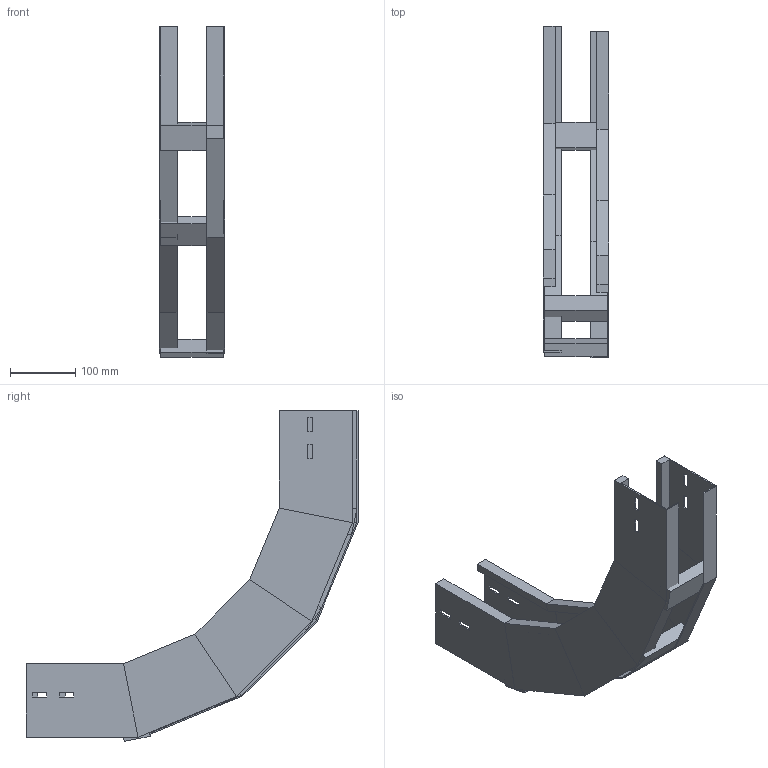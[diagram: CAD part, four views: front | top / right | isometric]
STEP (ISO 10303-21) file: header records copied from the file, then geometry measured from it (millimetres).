
FILE_DESCRIPTION (( 'STEP AP214' ), '1' );
FILE_NAME ('A2X30B3J100XX.step', '2025-04-02T09:08:10', ( '' ), ( '' ), 'SwSTEP 2.0', 'SolidWorks 2023', '' );
FILE_SCHEMA (( 'AUTOMOTIVE_DESIGN' ));
Length unit declared in the file: millimetre
Products named in the file (3): LONGH.SALITA_90°_H112.5_R300; A2X30B3J100XX; TRAVERSINO_100
Assembly tree (5 placements, depth 2):
  A2X30B3J100XX
    LONGH.SALITA_90°_H112.5_R300  x2
    TRAVERSINO_100  x3
Bounding box: 100 x 509.89 x 507.89 mm (x, y, z)
Volume: 904909.2 mm3; surface area: 507222.1 mm2
Topology: 5 solids, 5 shells, 134 faces, 308 edges, 184 vertices
Faces by surface type: plane 134
Entity records: 1864 total; most frequent: CARTESIAN_POINT 308, ORIENTED_EDGE 296, DIRECTION 292, VECTOR 148, LINE 148, EDGE_CURVE 148, VERTEX_POINT 88, EDGE_LOOP 72
